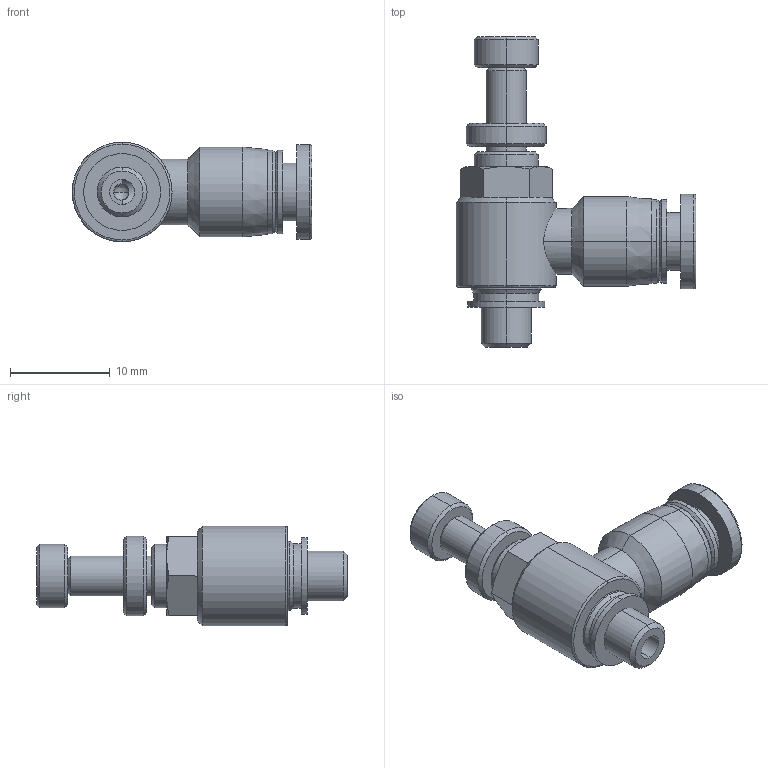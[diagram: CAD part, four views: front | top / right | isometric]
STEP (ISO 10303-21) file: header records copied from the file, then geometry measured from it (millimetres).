
FILE_DESCRIPTION (( 'STEP AP203' ), '1' );
FILE_NAME ('ZSC04-M5.STEP', '2023-10-20T02:55:05', ( 'A' ), ( 'E.mc' ), 'SwSTEP 2.0', 'SolidWorks 2017', '' );
FILE_SCHEMA (( 'CONFIG_CONTROL_DESIGN' ));
Length unit declared in the file: millimetre
Products named in the file (1): ZSC04-M5
Bounding box: 24 x 31.1 x 10 mm (x, y, z)
Volume: 1880.4 mm3; surface area: 1753 mm2
Topology: 1 solids, 1 shells, 115 faces, 248 edges, 146 vertices
Faces by surface type: cylinder 39, plane 36, cone 32, bspline 8
Entity records: 3443 total; most frequent: CARTESIAN_POINT 855, DIRECTION 568, ORIENTED_EDGE 492, EDGE_CURVE 246, AXIS2_PLACEMENT_3D 237, VERTEX_POINT 146, EDGE_LOOP 130, CIRCLE 129
